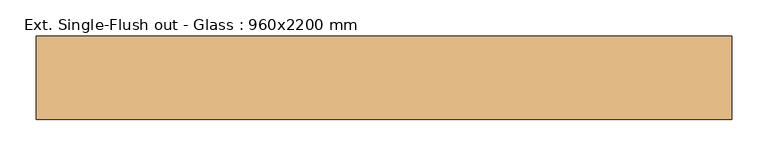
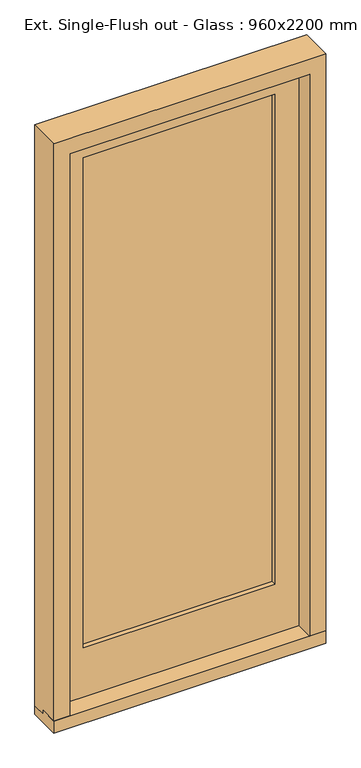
"""IFC4 building model written with IfcOpenShell, lengths in millimetres: door geometry, Ext. Single-Flush out - Glass : 960x2200 mm."""

from ifc_helpers import new_model, si_unit, frame, origin, place, context, project, spatial, polyline, outline, extrude, faceted_brep, source, transform, mapped, element, save


def ext_single_flush_out_glass_960x2200_mm_15830432(model_context):
    return source(origin(), model_context, "Body", "SolidModel", [
        extrude(outline(polyline([(140.0, 45.0), (140.0, 30.0), (190.0, 30.0), (190.0, 0.0), (75.0, 0.0), (75.0, 45.0), (140.0, 45.0)])), frame((-480.0, 0.0, 0.0), z_axis=(1.0, 0.0, 0.0), x_axis=(0.0, 1.0, 0.0)), (0.0, 0.0, 1.0), 960.0),
        extrude(outline(polyline([(338.0, 156.6666667), (-338.0, 156.6666667), (-338.0, 173.3333333), (338.0, 173.3333333), (338.0, 156.6666667)])), frame((0.0, 0.0, 230.0), z_axis=(0.0, 0.0, 1.0), x_axis=(1.0, 0.0, 0.0)), (0.0, 0.0, 1.0), 1828.0),
        extrude(outline(polyline([(2158.0, -438.0), (30.0, -438.0), (30.0, 438.0), (2158.0, 438.0), (2158.0, -438.0)]), holes=[polyline([(2058.0, -338.0), (2058.0, 338.0), (230.0, 338.0), (230.0, -338.0), (2058.0, -338.0)])]), frame((0.0, 140.0, 0.0), z_axis=(0.0, 1.0, 0.0), x_axis=(0.0, 0.0, 1.0)), (0.0, 0.0, 1.0), 50.0),
        faceted_brep([(-438.0, 140.0, 2158.0), (438.0, 140.0, 2158.0), (438.0, 140.0, 45.0), (423.0, 140.0, 45.0), (423.0, 140.0, 2143.0), (-423.0, 140.0, 2143.0), (-423.0, 140.0, 45.0), (-438.0, 140.0, 45.0), (-438.0, 190.0, 2158.0), (-438.0, 140.0, 30.0), (-438.0, 190.0, 30.0), (-480.0, 140.0, 45.0), (-480.0, 140.0, 30.0), (480.0, 140.0, 45.0), (438.0, 140.0, 30.0), (480.0, 140.0, 30.0), (-480.0, 190.0, 30.0), (438.0, 190.0, 30.0), (480.0, 190.0, 30.0), (-480.0, 190.0, 2200.0), (480.0, 190.0, 2200.0), (438.0, 190.0, 2158.0), (-423.0, 75.0, 45.0), (-480.0, 75.0, 45.0), (480.0, 75.0, 45.0), (423.0, 75.0, 45.0), (423.0, 75.0, 2143.0), (-423.0, 75.0, 2143.0), (480.0, 75.0, 2200.0), (-480.0, 75.0, 2200.0)], [[[0, 1, 2, 3, 4, 5, 6, 7]], [[8, 0, 7, 9, 10]], [[7, 11, 12, 9]], [[13, 2, 14, 15]], [[9, 12, 16, 10]], [[15, 14, 17, 18]], [[19, 20, 18, 17, 21, 8, 10, 16]], [[1, 21, 17, 14, 2]], [[11, 7, 6, 22, 23]], [[2, 13, 24, 25, 3]], [[26, 4, 3, 25]], [[5, 27, 22, 6]], [[27, 26, 25, 24, 28, 29, 23, 22]], [[20, 28, 24, 13, 15, 18]], [[29, 19, 16, 12, 11, 23]], [[0, 8, 21, 1]], [[5, 4, 26, 27]], [[29, 28, 20, 19]]]),
    ])


if __name__ == "__main__":
    model = new_model("IFC4")
    model_context = context("Model", 3, world=origin())
    ifc_project = project(units=[si_unit("LENGTHUNIT", "METRE", prefix="MILLI")], contexts=[model_context])
    site = spatial("IfcSite", under=ifc_project)
    building = spatial("IfcBuilding", under=site)
    placement = place(None, origin())
    ext_single_flush_out_glass_960x2200_mm_shape = ext_single_flush_out_glass_960x2200_mm_15830432(model_context)
    element("IfcDoor", 1, ObjectType="Ext. Single-Flush out - Glass : 960x2200 mm", at=placement, inside=building, context=model_context, shape_type="MappedRepresentation", body=[
        mapped(ext_single_flush_out_glass_960x2200_mm_shape, transform((0.0, 0.0, 0.0), x_axis=(1.0, 0.0, 0.0), y_axis=(0.0, 1.0, 0.0), z_axis=(0.0, 0.0, 1.0))),
    ])
    save(model, "model.ifc")
